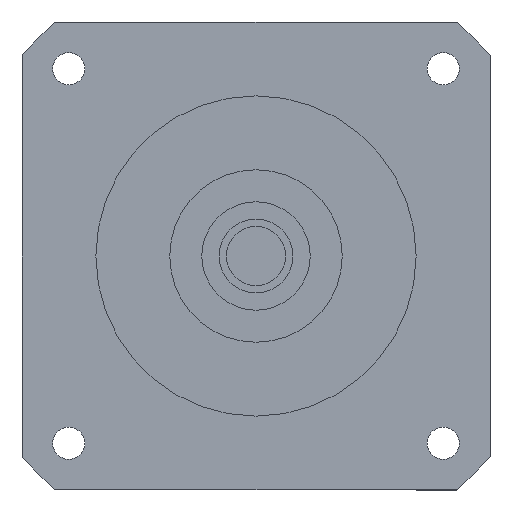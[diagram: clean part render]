
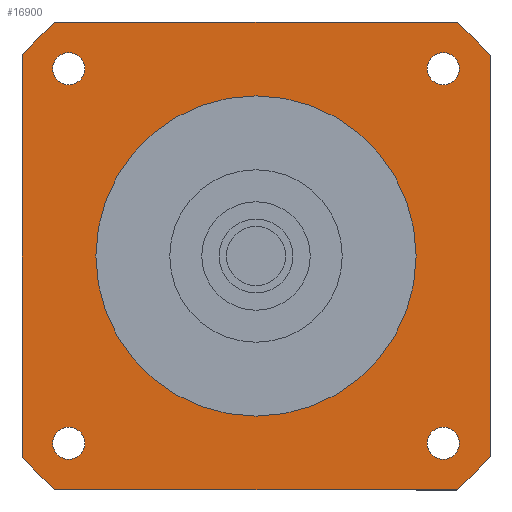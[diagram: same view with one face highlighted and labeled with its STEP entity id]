
A CAD part, left-side view. The second image highlights one B-rep face of the part: STEP entity #16900.
In plain terms, the highlighted planar face has unit normal (-1, 0, 0) as drawn and (0, 0, -1) by its records, which use the part's own axes.
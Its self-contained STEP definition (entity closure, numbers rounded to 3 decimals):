
#13420=CARTESIAN_POINT('',(95.,-81.24,-59.7));
#13430=VERTEX_POINT('',#13420);
#13480=CARTESIAN_POINT('',(0.,0.,
-59.7));
#13490=DIRECTION('',(0.,0.,-1.));
#13500=DIRECTION('',(1.,0.,0.));
#13510=AXIS2_PLACEMENT_3D('',#13480,#13490,#13500);
#13520=CIRCLE('',#13510,125.);
#13530=CARTESIAN_POINT('',(81.24,-95.,-59.7));
#13540=VERTEX_POINT('',#13530);
#13550=EDGE_CURVE('',#13430,#13540,#13520,.T.);
#15330=CARTESIAN_POINT('',(69.514,-76.014,-59.7));
#15340=VERTEX_POINT('',#15330);
#15370=CARTESIAN_POINT('',(76.014,-76.014,-59.7));
#15380=DIRECTION('',(0.,0.,-1.));
#15390=DIRECTION('',(1.,0.,0.));
#15400=AXIS2_PLACEMENT_3D('',#15370,#15380,#15390);
#15410=CIRCLE('',#15400,6.5);
#15420=CARTESIAN_POINT('',(82.514,-76.014,-59.7));
#15430=VERTEX_POINT('',#15420);
#15440=EDGE_CURVE('',#15430,#15340,#15410,.T.);
#15560=CARTESIAN_POINT('',(95.,95.,-59.7));
#15570=DIRECTION('',(0.,0.,-1.));
#15580=DIRECTION('',(1.,0.,0.));
#15590=AXIS2_PLACEMENT_3D('',#15560,#15570,#15580);
#15600=PLANE('',#15590);
#15610=CARTESIAN_POINT('',(-76.014,76.014,-59.7));
#15620=DIRECTION('',(0.,0.,-1.));
#15630=DIRECTION('',(-1.,0.,0.));
#15640=AXIS2_PLACEMENT_3D('',#15610,#15620,#15630);
#15650=CIRCLE('',#15640,6.5);
#15660=CARTESIAN_POINT('',(-82.514,76.014,-59.7));
#15670=VERTEX_POINT('',#15660);
#15680=CARTESIAN_POINT('',(-69.514,76.014,-59.7));
#15690=VERTEX_POINT('',#15680);
#15700=EDGE_CURVE('',#15670,#15690,#15650,.T.);
#15710=ORIENTED_EDGE('',*,*,#15700,.F.);
#15720=EDGE_CURVE('',#15690,#15670,#15650,.T.);
#15730=ORIENTED_EDGE('',*,*,#15720,.F.);
#15740=EDGE_LOOP('',(#15730,#15710));
#15750=FACE_BOUND('',#15740,.T.);
#15760=CARTESIAN_POINT('',(76.014,76.014,-59.7));
#15770=DIRECTION('',(0.,0.,-1.));
#15780=DIRECTION('',(0.,1.,0.));
#15790=AXIS2_PLACEMENT_3D('',#15760,#15770,#15780);
#15800=CIRCLE('',#15790,6.5);
#15810=CARTESIAN_POINT('',(76.014,82.514,-59.7));
#15820=VERTEX_POINT('',#15810);
#15830=CARTESIAN_POINT('',(76.014,69.514,-59.7));
#15840=VERTEX_POINT('',#15830);
#15850=EDGE_CURVE('',#15820,#15840,#15800,.T.);
#15860=ORIENTED_EDGE('',*,*,#15850,.F.);
#15870=EDGE_CURVE('',#15840,#15820,#15800,.T.);
#15880=ORIENTED_EDGE('',*,*,#15870,.F.);
#15890=EDGE_LOOP('',(#15880,#15860));
#15900=FACE_BOUND('',#15890,.T.);
#15910=CARTESIAN_POINT('',(0.,0.,
-59.7));
#15920=DIRECTION('',(0.,0.,1.));
#15930=DIRECTION('',(0.,1.,0.));
#15940=AXIS2_PLACEMENT_3D('',#15910,#15920,#15930);
#15950=CIRCLE('',#15940,65.);
#15960=CARTESIAN_POINT('',(-65.,0.,-59.7));
#15970=VERTEX_POINT('',#15960);
#15980=CARTESIAN_POINT('',(65.,0.,-59.7));
#15990=VERTEX_POINT('',#15980);
#16000=EDGE_CURVE('',#15970,#15990,#15950,.T.);
#16010=ORIENTED_EDGE('',*,*,#16000,.T.);
#16020=CARTESIAN_POINT('',(0.,65.,-59.7));
#16030=VERTEX_POINT('',#16020);
#16040=EDGE_CURVE('',#16030,#15970,#15950,.T.);
#16050=ORIENTED_EDGE('',*,*,#16040,.T.);
#16060=EDGE_CURVE('',#15990,#16030,#15950,.T.);
#16070=ORIENTED_EDGE('',*,*,#16060,.T.);
#16080=EDGE_LOOP('',(#16070,#16050,#16010));
#16090=FACE_BOUND('',#16080,.T.);
#16100=ORIENTED_EDGE('',*,*,#15440,.F.);
#16110=EDGE_CURVE('',#15340,#15430,#15410,.T.);
#16120=ORIENTED_EDGE('',*,*,#16110,.F.);
#16130=EDGE_LOOP('',(#16120,#16100));
#16140=FACE_BOUND('',#16130,.T.);
#16150=CARTESIAN_POINT('',(-76.014,-76.014,-59.7));
#16160=DIRECTION('',(0.,0.,-1.));
#16170=DIRECTION('',(0.,-1.,0.));
#16180=AXIS2_PLACEMENT_3D('',#16150,#16160,#16170);
#16190=CIRCLE('',#16180,6.5);
#16200=CARTESIAN_POINT('',(-76.014,-82.514,-59.7));
#16210=VERTEX_POINT('',#16200);
#16220=CARTESIAN_POINT('',(-76.014,-69.514,-59.7));
#16230=VERTEX_POINT('',#16220);
#16240=EDGE_CURVE('',#16210,#16230,#16190,.T.);
#16250=ORIENTED_EDGE('',*,*,#16240,.F.);
#16260=EDGE_CURVE('',#16230,#16210,#16190,.T.);
#16270=ORIENTED_EDGE('',*,*,#16260,.F.);
#16280=EDGE_LOOP('',(#16270,#16250));
#16290=FACE_BOUND('',#16280,.T.);
#16300=CARTESIAN_POINT('',(-95.,95.,-59.7));
#16310=DIRECTION('',(1.,0.,0.));
#16320=VECTOR('',#16310,1000.);
#16330=LINE('',#16300,#16320);
#16340=CARTESIAN_POINT('',(-81.24,95.,-59.7));
#16350=VERTEX_POINT('',#16340);
#16360=CARTESIAN_POINT('',(81.24,95.,-59.7));
#16370=VERTEX_POINT('',#16360);
#16380=EDGE_CURVE('',#16350,#16370,#16330,.T.);
#16390=ORIENTED_EDGE('',*,*,#16380,.T.);
#16400=CARTESIAN_POINT('',(0.,0.,
-59.7));
#16410=DIRECTION('',(0.,0.,-1.));
#16420=DIRECTION('',(1.,0.,0.));
#16430=AXIS2_PLACEMENT_3D('',#16400,#16410,#16420);
#16440=CIRCLE('',#16430,125.);
#16450=CARTESIAN_POINT('',(-95.,81.24,-59.7));
#16460=VERTEX_POINT('',#16450);
#16470=EDGE_CURVE('',#16460,#16350,#16440,.T.);
#16480=ORIENTED_EDGE('',*,*,#16470,.T.);
#16490=CARTESIAN_POINT('',(-95.,-95.,-59.7));
#16500=DIRECTION('',(0.,1.,0.));
#16510=VECTOR('',#16500,1000.);
#16520=LINE('',#16490,#16510);
#16530=CARTESIAN_POINT('',(-95.,-81.24,-59.7));
#16540=VERTEX_POINT('',#16530);
#16550=EDGE_CURVE('',#16540,#16460,#16520,.T.);
#16560=ORIENTED_EDGE('',*,*,#16550,.T.);
#16570=CARTESIAN_POINT('',(0.,0.,
-59.7));
#16580=DIRECTION('',(0.,0.,-1.));
#16590=DIRECTION('',(1.,0.,0.));
#16600=AXIS2_PLACEMENT_3D('',#16570,#16580,#16590);
#16610=CIRCLE('',#16600,125.);
#16620=CARTESIAN_POINT('',(-81.24,-95.,-59.7));
#16630=VERTEX_POINT('',#16620);
#16640=EDGE_CURVE('',#16630,#16540,#16610,.T.);
#16650=ORIENTED_EDGE('',*,*,#16640,.T.);
#16660=CARTESIAN_POINT('',(95.,-95.,-59.7));
#16670=DIRECTION('',(-1.,0.,0.));
#16680=VECTOR('',#16670,1000.);
#16690=LINE('',#16660,#16680);
#16700=EDGE_CURVE('',#13540,#16630,#16690,.T.);
#16710=ORIENTED_EDGE('',*,*,#16700,.T.);
#16720=ORIENTED_EDGE('',*,*,#13550,.T.);
#16730=CARTESIAN_POINT('',(95.,95.,-59.7));
#16740=DIRECTION('',(0.,-1.,0.));
#16750=VECTOR('',#16740,1000.);
#16760=LINE('',#16730,#16750);
#16770=CARTESIAN_POINT('',(95.,81.24,-59.7));
#16780=VERTEX_POINT('',#16770);
#16790=EDGE_CURVE('',#16780,#13430,#16760,.T.);
#16800=ORIENTED_EDGE('',*,*,#16790,.T.);
#16810=CARTESIAN_POINT('',(0.,0.,
-59.7));
#16820=DIRECTION('',(0.,0.,-1.));
#16830=DIRECTION('',(1.,0.,0.));
#16840=AXIS2_PLACEMENT_3D('',#16810,#16820,#16830);
#16850=CIRCLE('',#16840,125.);
#16860=EDGE_CURVE('',#16370,#16780,#16850,.T.);
#16870=ORIENTED_EDGE('',*,*,#16860,.T.);
#16880=EDGE_LOOP('',(#16870,#16800,#16720,#16710,#16650,#16560,#16480,
#16390));
#16890=FACE_OUTER_BOUND('',#16880,.T.);
#16900=ADVANCED_FACE('',(#15750,#15900,#16090,#16140,#16290,#16890),
#15600,.T.);
